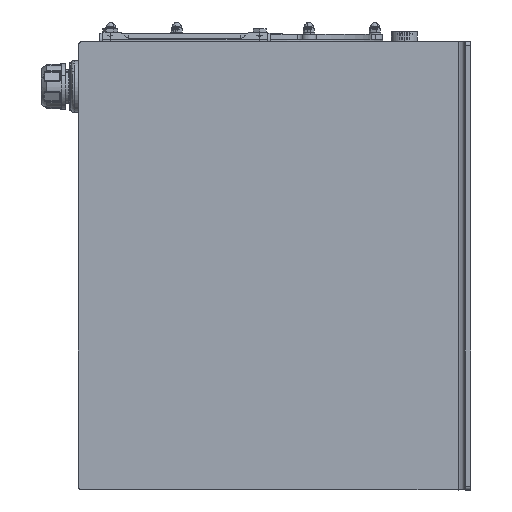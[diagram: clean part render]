
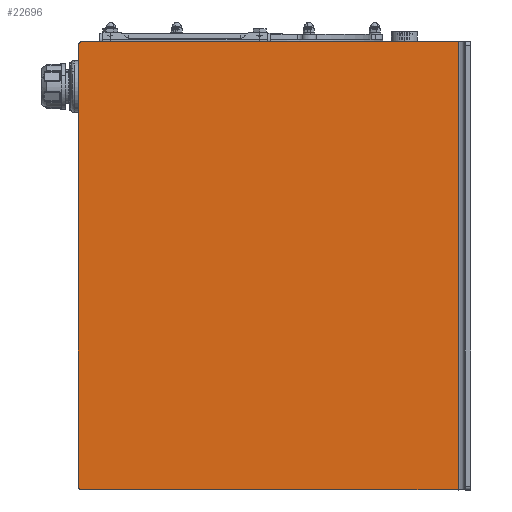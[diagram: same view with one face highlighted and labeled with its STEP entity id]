
A CAD part, left-side view. The second image highlights one B-rep face of the part: STEP entity #22696.
In plain terms, the highlighted planar face has unit normal (-1, 0, 0) as drawn and (0, 0, 1) by its records, which use the part's own axes.
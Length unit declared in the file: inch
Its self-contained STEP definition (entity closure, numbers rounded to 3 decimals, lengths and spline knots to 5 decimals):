
#579 = AXIS2_PLACEMENT_3D ( 'NONE', #16407, #29800, #5380 ) ;
#987 = VERTEX_POINT ( 'NONE', #27985 ) ;
#1063 = VERTEX_POINT ( 'NONE', #2122 ) ;
#2122 = CARTESIAN_POINT ( 'NONE',  ( 15., -12.2812, 0. ) ) ;
#3145 = EDGE_CURVE ( 'NONE', #25245, #987, #18483, .T. ) ;
#3370 = ORIENTED_EDGE ( 'NONE', *, *, #18457, .F. ) ;
#3391 = EDGE_CURVE ( 'NONE', #1063, #22749, #26972, .T. ) ;
#3548 = LINE ( 'NONE', #17270, #5226 ) ;
#3657 = DIRECTION ( 'NONE',  ( -1., 0., 0. ) ) ;
#4588 = AXIS2_PLACEMENT_3D ( 'NONE', #23017, #6797, #17130 ) ;
#4656 = EDGE_CURVE ( 'NONE', #31645, #25245, #3548, .T. ) ;
#4767 = EDGE_CURVE ( 'NONE', #22749, #31645, #16700, .T. ) ;
#5226 = VECTOR ( 'NONE', #3657, 39.37008 ) ;
#5380 = DIRECTION ( 'NONE',  ( -1., 0., 0. ) ) ;
#6797 = DIRECTION ( 'NONE',  ( 0., 0., 1. ) ) ;
#7481 = LINE ( 'NONE', #8012, #29965 ) ;
#8012 = CARTESIAN_POINT ( 'NONE',  ( 15., -12.2812, 0. ) ) ;
#8139 = EDGE_LOOP ( 'NONE', ( #34097, #33280, #34868, #30778, #32203, #3370 ) ) ;
#8208 = PLANE ( 'NONE',  #579 ) ;
#13955 = AXIS2_PLACEMENT_3D ( 'NONE', #28520, #33617, #34077 ) ;
#15912 = CARTESIAN_POINT ( 'NONE',  ( 15., -13.125, 0. ) ) ;
#15962 = DIRECTION ( 'NONE',  ( -1., 0., 0. ) ) ;
#16407 = CARTESIAN_POINT ( 'NONE',  ( 0., 0., 0. ) ) ;
#16700 = CIRCLE ( 'NONE', #13955, 0.25 ) ;
#17130 = DIRECTION ( 'NONE',  ( -1., 0., 0. ) ) ;
#17270 = CARTESIAN_POINT ( 'NONE',  ( -15., 13.125, 0. ) ) ;
#18457 = EDGE_CURVE ( 'NONE', #1063, #32755, #7481, .T. ) ;
#18483 = CIRCLE ( 'NONE', #4588, 0.25 ) ;
#19012 = CARTESIAN_POINT ( 'NONE',  ( 15., 12.875, 0. ) ) ;
#19051 = VECTOR ( 'NONE', #24992, 39.37008 ) ;
#19633 = CARTESIAN_POINT ( 'NONE',  ( -15., -13.125, 0. ) ) ;
#22696 = ADVANCED_FACE ( 'NONE', ( #28028 ), #8208, .F. ) ;
#22749 = VERTEX_POINT ( 'NONE', #19012 ) ;
#23017 = CARTESIAN_POINT ( 'NONE',  ( -14.75, 12.875, 0. ) ) ;
#24992 = DIRECTION ( 'NONE',  ( 0., -1., 0. ) ) ;
#25245 = VERTEX_POINT ( 'NONE', #31339 ) ;
#25861 = CARTESIAN_POINT ( 'NONE',  ( 14.75, 13.125, 0. ) ) ;
#26972 = LINE ( 'NONE', #15912, #33764 ) ;
#27899 = CARTESIAN_POINT ( 'NONE',  ( -15., -12.2812, 0. ) ) ;
#27985 = CARTESIAN_POINT ( 'NONE',  ( -15., 12.875, 0. ) ) ;
#28028 = FACE_OUTER_BOUND ( 'NONE', #8139, .T. ) ;
#28509 = EDGE_CURVE ( 'NONE', #987, #32755, #33062, .T. ) ;
#28520 = CARTESIAN_POINT ( 'NONE',  ( 14.75, 12.875, 0. ) ) ;
#29800 = DIRECTION ( 'NONE',  ( 0., 0., -1. ) ) ;
#29965 = VECTOR ( 'NONE', #15962, 39.37008 ) ;
#30020 = DIRECTION ( 'NONE',  ( 0., 1., 0. ) ) ;
#30778 = ORIENTED_EDGE ( 'NONE', *, *, #3145, .T. ) ;
#31339 = CARTESIAN_POINT ( 'NONE',  ( -14.75, 13.125, 0. ) ) ;
#31645 = VERTEX_POINT ( 'NONE', #25861 ) ;
#32203 = ORIENTED_EDGE ( 'NONE', *, *, #28509, .T. ) ;
#32755 = VERTEX_POINT ( 'NONE', #27899 ) ;
#33062 = LINE ( 'NONE', #19633, #19051 ) ;
#33280 = ORIENTED_EDGE ( 'NONE', *, *, #4767, .T. ) ;
#33617 = DIRECTION ( 'NONE',  ( 0., 0., 1. ) ) ;
#33764 = VECTOR ( 'NONE', #30020, 39.37008 ) ;
#34077 = DIRECTION ( 'NONE',  ( -1., 0., 0. ) ) ;
#34097 = ORIENTED_EDGE ( 'NONE', *, *, #3391, .T. ) ;
#34868 = ORIENTED_EDGE ( 'NONE', *, *, #4656, .T. ) ;
